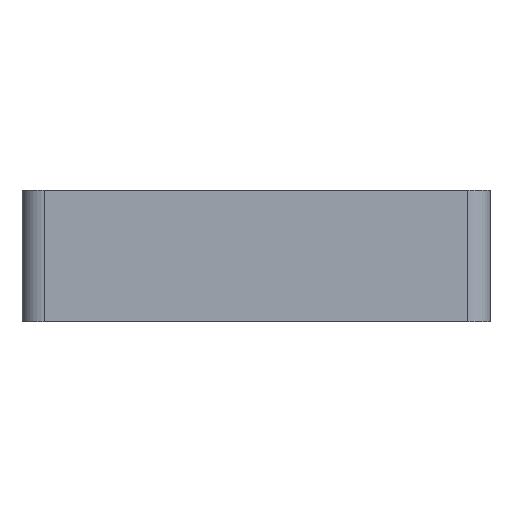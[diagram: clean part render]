
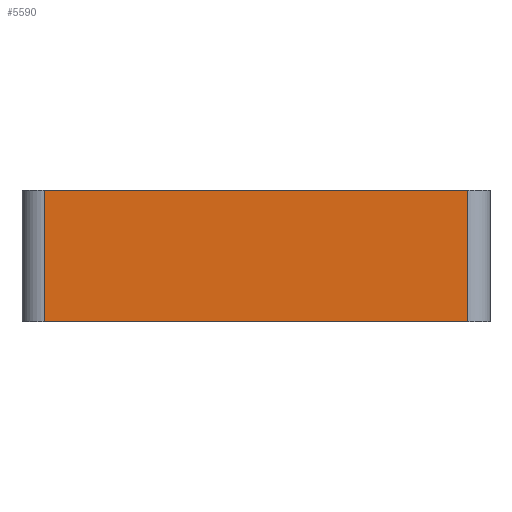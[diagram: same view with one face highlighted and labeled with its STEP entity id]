
A CAD part, front view. The second image highlights one B-rep face of the part: STEP entity #5590.
In plain terms, the highlighted planar face has unit normal (0, -1, 0).
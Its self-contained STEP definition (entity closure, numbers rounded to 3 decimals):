
#44 = PLANE('',#45);
#45 = AXIS2_PLACEMENT_3D('',#46,#47,#48);
#46 = CARTESIAN_POINT('',(-62.5,-62.5,35.));
#47 = DIRECTION('',(0.,0.,1.));
#48 = DIRECTION('',(1.,0.,-0.));
#72 = CYLINDRICAL_SURFACE('',#73,6.);
#73 = AXIS2_PLACEMENT_3D('',#74,#75,#76);
#74 = CARTESIAN_POINT('',(-56.5,-56.5,0.));
#75 = DIRECTION('',(0.,0.,1.));
#76 = DIRECTION('',(-1.,-0.,0.));
#100 = PLANE('',#101);
#101 = AXIS2_PLACEMENT_3D('',#102,#103,#104);
#102 = CARTESIAN_POINT('',(-62.5,-62.5,0.));
#103 = DIRECTION('',(0.,0.,1.));
#104 = DIRECTION('',(1.,0.,-0.));
#1234 = VERTEX_POINT('',#1235);
#1235 = CARTESIAN_POINT('',(-56.5,-62.5,35.));
#1257 = EDGE_CURVE('',#1234,#1258,#1260,.T.);
#1258 = VERTEX_POINT('',#1259);
#1259 = CARTESIAN_POINT('',(56.5,-62.5,35.));
#1260 = SURFACE_CURVE('',#1261,(#1265,#1272),.PCURVE_S1.);
#1261 = LINE('',#1262,#1263);
#1262 = CARTESIAN_POINT('',(-62.5,-62.5,35.));
#1263 = VECTOR('',#1264,1.);
#1264 = DIRECTION('',(1.,0.,-0.));
#1265 = PCURVE('',#44,#1266);
#1266 = DEFINITIONAL_REPRESENTATION('',(#1267),#1271);
#1267 = LINE('',#1268,#1269);
#1268 = CARTESIAN_POINT('',(0.,0.));
#1269 = VECTOR('',#1270,1.);
#1270 = DIRECTION('',(1.,0.));
#1271 = ( GEOMETRIC_REPRESENTATION_CONTEXT(2) 
PARAMETRIC_REPRESENTATION_CONTEXT() REPRESENTATION_CONTEXT('2D SPACE',''
  ) );
#1272 = PCURVE('',#1273,#1278);
#1273 = PLANE('',#1274);
#1274 = AXIS2_PLACEMENT_3D('',#1275,#1276,#1277);
#1275 = CARTESIAN_POINT('',(-62.5,-62.5,0.));
#1276 = DIRECTION('',(-0.,1.,0.));
#1277 = DIRECTION('',(0.,0.,1.));
#1278 = DEFINITIONAL_REPRESENTATION('',(#1279),#1283);
#1279 = LINE('',#1280,#1281);
#1280 = CARTESIAN_POINT('',(35.,0.));
#1281 = VECTOR('',#1282,1.);
#1282 = DIRECTION('',(0.,1.));
#1283 = ( GEOMETRIC_REPRESENTATION_CONTEXT(2) 
PARAMETRIC_REPRESENTATION_CONTEXT() REPRESENTATION_CONTEXT('2D SPACE',''
  ) );
#1306 = CYLINDRICAL_SURFACE('',#1307,6.);
#1307 = AXIS2_PLACEMENT_3D('',#1308,#1309,#1310);
#1308 = CARTESIAN_POINT('',(56.5,-56.5,0.));
#1309 = DIRECTION('',(0.,0.,1.));
#1310 = DIRECTION('',(1.,0.,-0.));
#1863 = VERTEX_POINT('',#1864);
#1864 = CARTESIAN_POINT('',(-56.5,-62.5,0.));
#1886 = EDGE_CURVE('',#1863,#1234,#1887,.T.);
#1887 = SURFACE_CURVE('',#1888,(#1892,#1899),.PCURVE_S1.);
#1888 = LINE('',#1889,#1890);
#1889 = CARTESIAN_POINT('',(-56.5,-62.5,0.));
#1890 = VECTOR('',#1891,1.);
#1891 = DIRECTION('',(0.,0.,1.));
#1892 = PCURVE('',#72,#1893);
#1893 = DEFINITIONAL_REPRESENTATION('',(#1894),#1898);
#1894 = LINE('',#1895,#1896);
#1895 = CARTESIAN_POINT('',(1.571,0.));
#1896 = VECTOR('',#1897,1.);
#1897 = DIRECTION('',(0.,1.));
#1898 = ( GEOMETRIC_REPRESENTATION_CONTEXT(2) 
PARAMETRIC_REPRESENTATION_CONTEXT() REPRESENTATION_CONTEXT('2D SPACE',''
  ) );
#1899 = PCURVE('',#1273,#1900);
#1900 = DEFINITIONAL_REPRESENTATION('',(#1901),#1905);
#1901 = LINE('',#1902,#1903);
#1902 = CARTESIAN_POINT('',(0.,6.));
#1903 = VECTOR('',#1904,1.);
#1904 = DIRECTION('',(1.,0.));
#1905 = ( GEOMETRIC_REPRESENTATION_CONTEXT(2) 
PARAMETRIC_REPRESENTATION_CONTEXT() REPRESENTATION_CONTEXT('2D SPACE',''
  ) );
#1968 = EDGE_CURVE('',#1863,#1969,#1971,.T.);
#1969 = VERTEX_POINT('',#1970);
#1970 = CARTESIAN_POINT('',(56.5,-62.5,0.));
#1971 = SURFACE_CURVE('',#1972,(#1976,#1983),.PCURVE_S1.);
#1972 = LINE('',#1973,#1974);
#1973 = CARTESIAN_POINT('',(-62.5,-62.5,0.));
#1974 = VECTOR('',#1975,1.);
#1975 = DIRECTION('',(1.,0.,-0.));
#1976 = PCURVE('',#100,#1977);
#1977 = DEFINITIONAL_REPRESENTATION('',(#1978),#1982);
#1978 = LINE('',#1979,#1980);
#1979 = CARTESIAN_POINT('',(0.,0.));
#1980 = VECTOR('',#1981,1.);
#1981 = DIRECTION('',(1.,0.));
#1982 = ( GEOMETRIC_REPRESENTATION_CONTEXT(2) 
PARAMETRIC_REPRESENTATION_CONTEXT() REPRESENTATION_CONTEXT('2D SPACE',''
  ) );
#1983 = PCURVE('',#1273,#1984);
#1984 = DEFINITIONAL_REPRESENTATION('',(#1985),#1989);
#1985 = LINE('',#1986,#1987);
#1986 = CARTESIAN_POINT('',(0.,0.));
#1987 = VECTOR('',#1988,1.);
#1988 = DIRECTION('',(0.,1.));
#1989 = ( GEOMETRIC_REPRESENTATION_CONTEXT(2) 
PARAMETRIC_REPRESENTATION_CONTEXT() REPRESENTATION_CONTEXT('2D SPACE',''
  ) );
#5590 = ADVANCED_FACE('',(#5591),#1273,.F.);
#5591 = FACE_BOUND('',#5592,.F.);
#5592 = EDGE_LOOP('',(#5593,#5594,#5595,#5596));
#5593 = ORIENTED_EDGE('',*,*,#1968,.F.);
#5594 = ORIENTED_EDGE('',*,*,#1886,.T.);
#5595 = ORIENTED_EDGE('',*,*,#1257,.T.);
#5596 = ORIENTED_EDGE('',*,*,#5597,.F.);
#5597 = EDGE_CURVE('',#1969,#1258,#5598,.T.);
#5598 = SURFACE_CURVE('',#5599,(#5603,#5610),.PCURVE_S1.);
#5599 = LINE('',#5600,#5601);
#5600 = CARTESIAN_POINT('',(56.5,-62.5,0.));
#5601 = VECTOR('',#5602,1.);
#5602 = DIRECTION('',(0.,0.,1.));
#5603 = PCURVE('',#1273,#5604);
#5604 = DEFINITIONAL_REPRESENTATION('',(#5605),#5609);
#5605 = LINE('',#5606,#5607);
#5606 = CARTESIAN_POINT('',(0.,119.));
#5607 = VECTOR('',#5608,1.);
#5608 = DIRECTION('',(1.,0.));
#5609 = ( GEOMETRIC_REPRESENTATION_CONTEXT(2) 
PARAMETRIC_REPRESENTATION_CONTEXT() REPRESENTATION_CONTEXT('2D SPACE',''
  ) );
#5610 = PCURVE('',#1306,#5611);
#5611 = DEFINITIONAL_REPRESENTATION('',(#5612),#5616);
#5612 = LINE('',#5613,#5614);
#5613 = CARTESIAN_POINT('',(-1.571,0.));
#5614 = VECTOR('',#5615,1.);
#5615 = DIRECTION('',(-0.,1.));
#5616 = ( GEOMETRIC_REPRESENTATION_CONTEXT(2) 
PARAMETRIC_REPRESENTATION_CONTEXT() REPRESENTATION_CONTEXT('2D SPACE',''
  ) );
